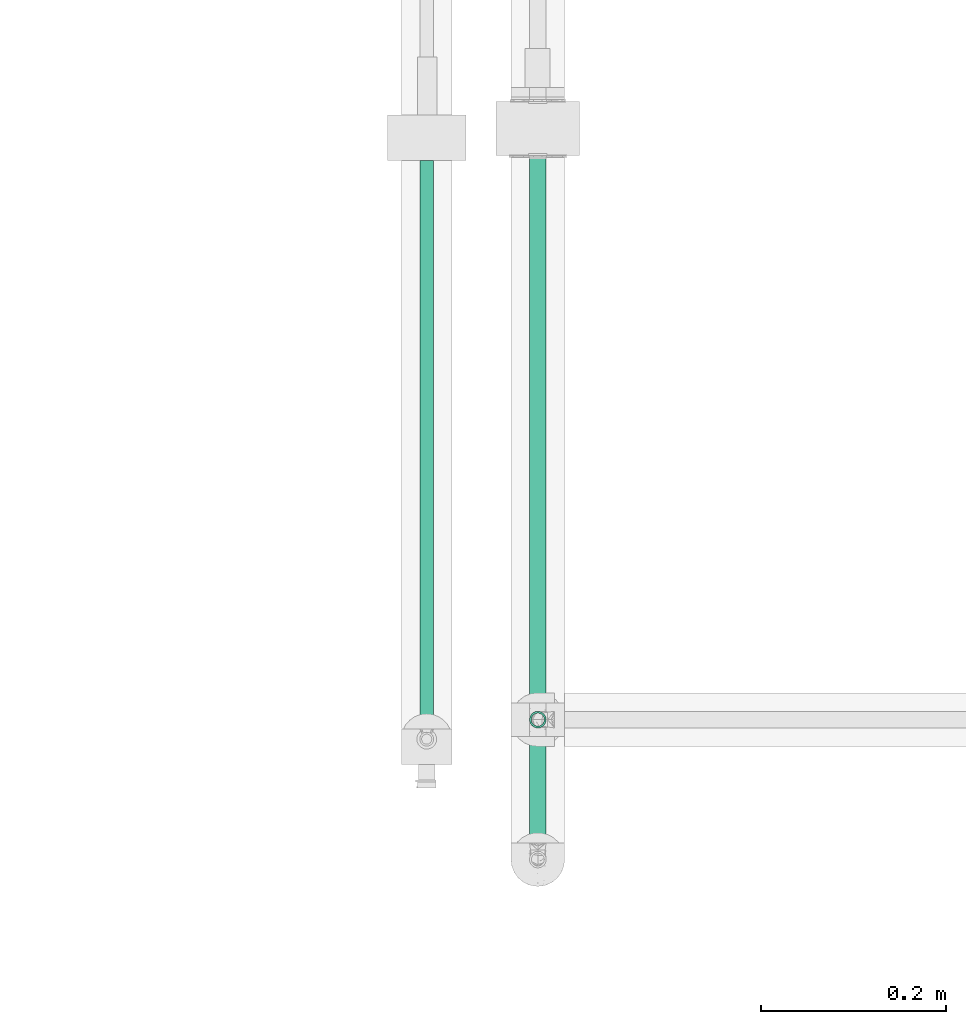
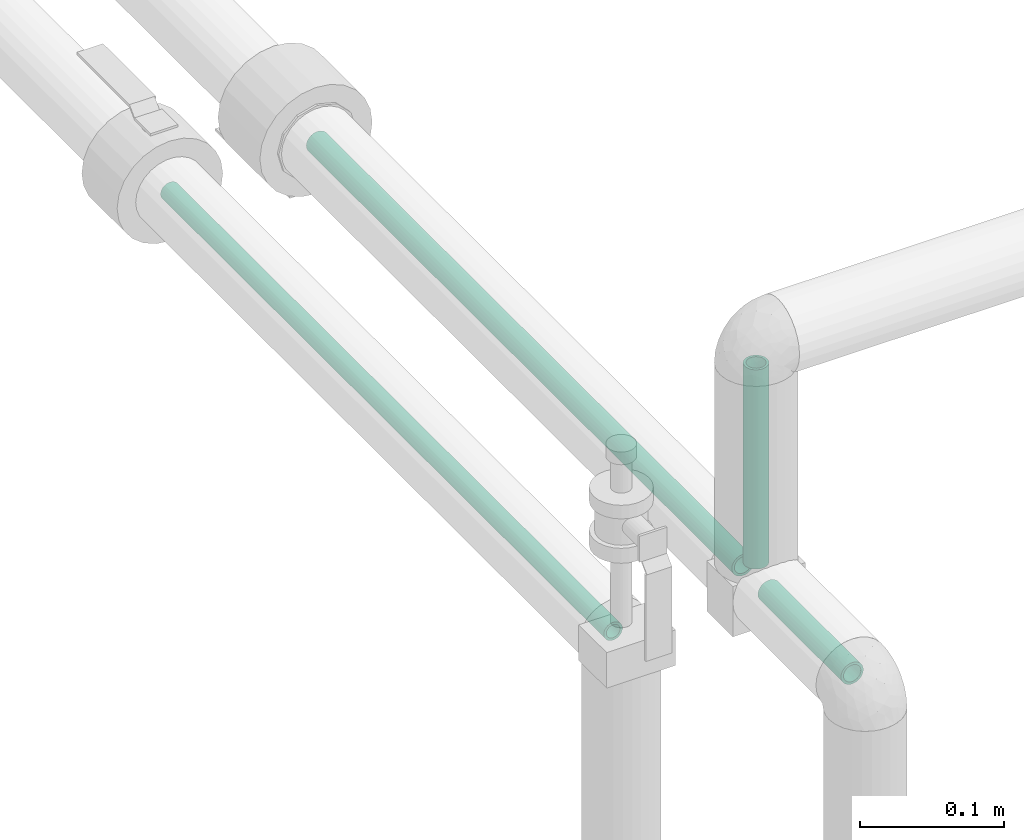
# One storey, part 28 of 78: 4 flow segments.
"""IFC2X3 building model written with IfcOpenShell, lengths in millimetres."""

from ifc_helpers import new_model, entity, si_unit, converted_unit, derived_unit, direction, frame, origin_with_axes, origin_2d_with_axis, place, context, subcontext, project, spatial, hollow_circle, extrude, source, transform, mapped, type_object, element, save


model = new_model("IFC2X3")

# Units and contexts
model_context = context("Model", 3, precision=0.01, world=frame((0.0, 4.29681676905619e-09, 0.0)), true_north=direction((4.01073788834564e-13, 1.0)))
plan_context = context("Plan", 3, precision=0.01, world=frame((0.0, 4.29681676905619e-09, 0.0)), true_north=direction((4.01073788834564e-13, 1.0)))
body_context = subcontext(model_context, "Body", "Model", "MODEL_VIEW")
ifc_project = project(units=[converted_unit("PLANEANGLEUNIT", "DEGREE", entity("IfcPositiveLengthMeasure", 0.0174532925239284), si_unit("PLANEANGLEUNIT", "RADIAN"), dimensions=[0, 0, 0, 0, 0, 0, 0]), si_unit("AREAUNIT", "SQUARE_METRE"), si_unit("LENGTHUNIT", "METRE", prefix="MILLI"), si_unit("MASSUNIT", "GRAM", prefix="KILO"), si_unit("POWERUNIT", "WATT"), si_unit("PRESSUREUNIT", "PASCAL"), si_unit("FORCEUNIT", "NEWTON", prefix="KILO"), si_unit("ELECTRICVOLTAGEUNIT", "VOLT"), si_unit("ELECTRICCURRENTUNIT", "AMPERE"), si_unit("THERMODYNAMICTEMPERATUREUNIT", "DEGREE_CELSIUS"), si_unit("TIMEUNIT", "SECOND"), si_unit("VOLUMEUNIT", "CUBIC_METRE"), derived_unit("LINEARVELOCITYUNIT", [(si_unit("LENGTHUNIT", "METRE"), 1), (si_unit("TIMEUNIT", "SECOND"), -1)]), derived_unit("VOLUMETRICFLOWRATEUNIT", [(si_unit("VOLUMEUNIT", "CUBIC_METRE"), 1), (si_unit("TIMEUNIT", "SECOND"), -1)]), derived_unit("THERMALTRANSMITTANCEUNIT", [(si_unit("POWERUNIT", "WATT"), 1), (si_unit("THERMODYNAMICTEMPERATUREUNIT", "KELVIN"), -1), (si_unit("AREAUNIT", "SQUARE_METRE"), -1)]), derived_unit("SOUNDPRESSUREUNIT", [(si_unit("PRESSUREUNIT", "PASCAL"), 1)])], contexts=[model_context, plan_context])

# Site, building, storey
site_placement = place(None, frame((0.0, -4.29681676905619e-09, 0.0), z_axis=(0.0, 0.0, 1.0), x_axis=(1.0, 0.0, 0.0)))
site = spatial("IfcSite", under=ifc_project, at=site_placement, Name="ENGM", CompositionType="ELEMENT")
building_placement = place(site_placement, frame((0.0, 4.29681676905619e-09, 0.0), z_axis=(0.0, 0.0, 1.0), x_axis=(1.0, 0.0, 0.0)))
building = spatial("IfcBuilding", under=site, at=building_placement, Name="TH", CompositionType="ELEMENT")
storey_placement = place(building_placement, frame((0.0, 0.0, 205200.0), z_axis=(0.0, 0.0, 1.0), x_axis=(1.0, 0.0, 0.0)))
storey = spatial("IfcBuildingStorey", under=building, at=storey_placement, Name="Nivå D + 1,2 m", CompositionType="ELEMENT", Elevation=205200.0)

# Flow segments
pipe_segment_type = type_object("IfcPipeSegmentType", Name="Kobberrør", PredefinedType="RIGIDSEGMENT")
shared_shape_1 = source(origin_with_axes(), body_context, "Body", "SweptSolid", [
    extrude(hollow_circle(Radius=7.5, WallThickness=2.0, at=origin_2d_with_axis()), frame((0.0, 0.0, 0.0), z_axis=(1.0, 0.0, 0.0), x_axis=(0.0, 1.0, 0.0)), (0.0, 0.0, 1.0), 613.8),
])
flow_segment_1_placement = place(storey_placement, frame((899890.50163, 478879.43178, 4212.79203000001), z_axis=(0.0, 0.0, 1.0), x_axis=(0.0, -1.0, 0.0)))
element("IfcFlowSegment", 1, at=flow_segment_1_placement, inside=storey, type_object=pipe_segment_type, Name="Kobberrør", context=body_context, shape_type="MappedRepresentation", body=[
    mapped(shared_shape_1, transform((0.0, 0.0, 0.0), scale=1.0)),
])
shared_shape_2 = source(origin_with_axes(), body_context, "Body", "SweptSolid", [
    extrude(hollow_circle(Radius=9.0, WallThickness=2.0, at=origin_2d_with_axis()), frame((0.0, 0.0, 0.0), z_axis=(1.0, 0.0, 0.0), x_axis=(0.0, 1.0, 0.0)), (0.0, 0.0, 1.0), 115.1),
])
flow_segment_2_placement = place(storey_placement, frame((900010.50163, 478257.49112, 4210.0), z_axis=(0.0, 0.0, 1.0), x_axis=(0.0, -1.0, 0.0)))
element("IfcFlowSegment", 2, at=flow_segment_2_placement, inside=storey, type_object=pipe_segment_type, Name="Kobberrør", context=body_context, shape_type="MappedRepresentation", body=[
    mapped(shared_shape_2, transform((0.0, 0.0, 0.0), scale=1.0)),
])
shared_shape_3 = source(origin_with_axes(), body_context, "Body", "SweptSolid", [
    extrude(hollow_circle(Radius=9.0, WallThickness=2.0, at=origin_2d_with_axis()), frame((0.0, 0.0, 0.0), z_axis=(1.0, 0.0, 0.0), x_axis=(0.0, 1.0, 0.0)), (0.0, 0.0, 1.0), 168.5),
])
flow_segment_3_placement = place(storey_placement, frame((900010.50163, 478275.49112, 4223.5), z_axis=(-1.0, 0.0, 0.0), x_axis=(0.0, 0.0, 1.0)))
element("IfcFlowSegment", 3, at=flow_segment_3_placement, inside=storey, type_object=pipe_segment_type, Name="Kobberrør", context=body_context, shape_type="MappedRepresentation", body=[
    mapped(shared_shape_3, transform((0.0, 0.0, 0.0), scale=1.0)),
])
shared_shape_4 = source(origin_with_axes(), body_context, "Body", "SweptSolid", [
    extrude(hollow_circle(Radius=9.0, WallThickness=2.0, at=origin_2d_with_axis()), frame((0.0, 0.0, 0.0), z_axis=(1.0, 0.0, 0.0), x_axis=(0.0, 1.0, 0.0)), (0.0, 0.0, 1.0), 589.5),
])
flow_segment_4_placement = place(storey_placement, frame((900010.50163, 478882.96045, 4210.0), z_axis=(0.0, 0.0, 1.0), x_axis=(0.0, -1.0, 0.0)))
element("IfcFlowSegment", 4, at=flow_segment_4_placement, inside=storey, type_object=pipe_segment_type, Name="Kobberrør", context=body_context, shape_type="MappedRepresentation", body=[
    mapped(shared_shape_4, transform((0.0, 0.0, 0.0), scale=1.0)),
])

save(model, "model.ifc")
